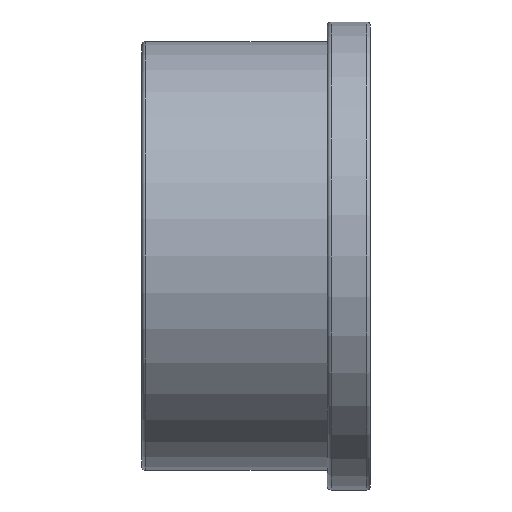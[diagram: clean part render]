
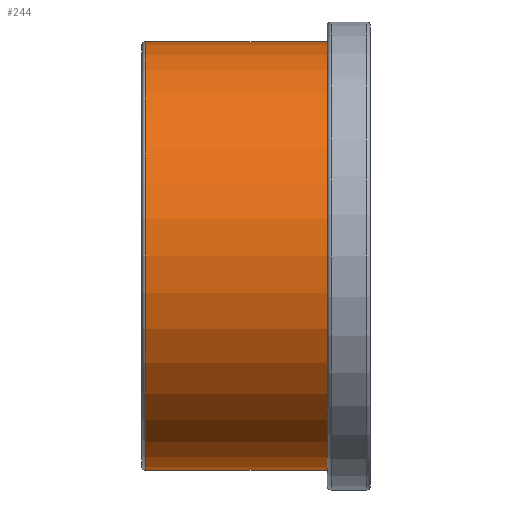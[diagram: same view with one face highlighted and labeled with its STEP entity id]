
A CAD part, front view. The second image highlights one B-rep face of the part: STEP entity #244.
In plain terms, the highlighted cylindrical face has radius 124.5 mm (diameter 249 mm), a full revolution.
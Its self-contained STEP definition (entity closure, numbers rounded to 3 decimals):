
#20=CYLINDRICAL_SURFACE('',#288,124.5);
#46=FACE_BOUND('',#108,.T.);
#67=FACE_OUTER_BOUND('',#107,.T.);
#107=EDGE_LOOP('',(#212));
#108=EDGE_LOOP('',(#213));
#130=CIRCLE('',#285,124.5);
#131=CIRCLE('',#287,124.5);
#151=VERTEX_POINT('',#433);
#152=VERTEX_POINT('',#436);
#172=EDGE_CURVE('',#151,#151,#130,.T.);
#173=EDGE_CURVE('',#152,#152,#131,.T.);
#212=ORIENTED_EDGE('',*,*,#172,.T.);
#213=ORIENTED_EDGE('',*,*,#173,.F.);
#244=ADVANCED_FACE('',(#67,#46),#20,.T.);
#285=AXIS2_PLACEMENT_3D('',#434,#366,#367);
#287=AXIS2_PLACEMENT_3D('',#437,#370,#371);
#288=AXIS2_PLACEMENT_3D('',#438,#372,#373);
#366=DIRECTION('center_axis',(-1.,0.,0.));
#367=DIRECTION('ref_axis',(0.,0.,1.));
#370=DIRECTION('center_axis',(-1.,0.,0.));
#371=DIRECTION('ref_axis',(0.,1.,0.));
#372=DIRECTION('center_axis',(-1.,0.,0.));
#373=DIRECTION('ref_axis',(0.,-1.,0.));
#433=CARTESIAN_POINT('',(108.,-124.5,0.));
#434=CARTESIAN_POINT('Origin',(108.,0.,0.));
#436=CARTESIAN_POINT('',(2.25,-124.5,0.));
#437=CARTESIAN_POINT('Origin',(2.25,0.,0.));
#438=CARTESIAN_POINT('Origin',(54.,0.,0.));
